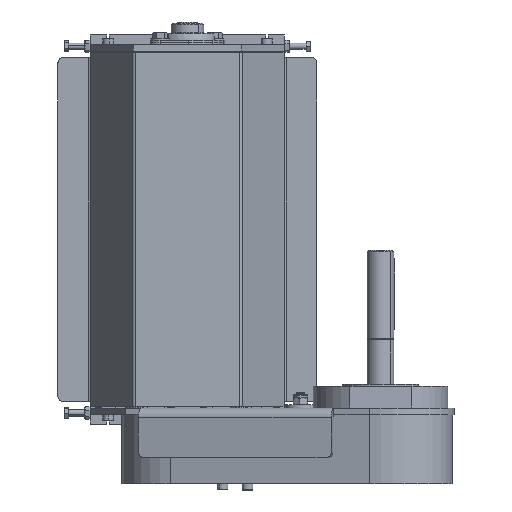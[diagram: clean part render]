
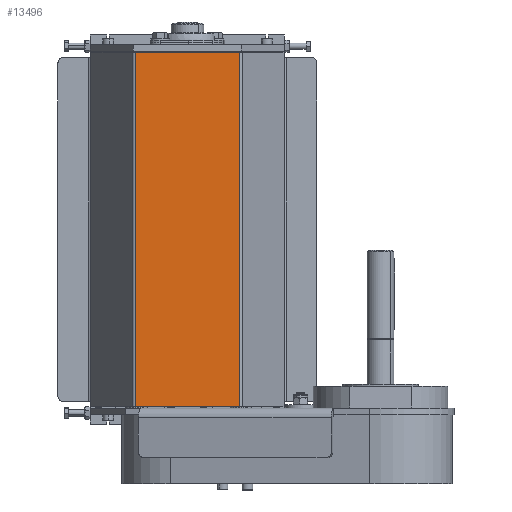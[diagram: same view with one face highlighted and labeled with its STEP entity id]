
A CAD part, front view. The second image highlights one B-rep face of the part: STEP entity #13496.
In plain terms, the highlighted planar face has unit normal (0, -1, 0).
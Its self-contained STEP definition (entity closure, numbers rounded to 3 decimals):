
#807 = VERTEX_POINT ( 'NONE', #2565 ) ;
#975 = ORIENTED_EDGE ( 'NONE', *, *, #12580, .F. ) ;
#2565 = CARTESIAN_POINT ( 'NONE',  ( 48.268, -200.5, -835.035 ) ) ;
#3413 = LINE ( 'NONE', #9927, #24065 ) ;
#4545 = CARTESIAN_POINT ( 'NONE',  ( -48.268, -200.5, -506.035 ) ) ;
#4814 = AXIS2_PLACEMENT_3D ( 'NONE', #28475, #4827, #7075 ) ;
#4827 = DIRECTION ( 'NONE',  ( 0., 1., 0. ) ) ;
#5038 = EDGE_LOOP ( 'NONE', ( #16384, #29290, #975, #17818 ) ) ;
#6767 = VECTOR ( 'NONE', #18749, 1000. ) ;
#7075 = DIRECTION ( 'NONE',  ( -1., 0., 0. ) ) ;
#8830 = DIRECTION ( 'NONE',  ( 0., 0., -1. ) ) ;
#9256 = EDGE_CURVE ( 'NONE', #10824, #807, #22511, .T. ) ;
#9927 = CARTESIAN_POINT ( 'NONE',  ( -50., -200.5, -506.035 ) ) ;
#10824 = VERTEX_POINT ( 'NONE', #11703 ) ;
#11430 = DIRECTION ( 'NONE',  ( 1., 0., 0. ) ) ;
#11703 = CARTESIAN_POINT ( 'NONE',  ( 48.268, -200.5, -506.035 ) ) ;
#12580 = EDGE_CURVE ( 'NONE', #15241, #10824, #3413, .T. ) ;
#13496 = ADVANCED_FACE ( 'NONE', ( #19517 ), #19162, .F. ) ;
#14129 = VERTEX_POINT ( 'NONE', #29065 ) ;
#14596 = VECTOR ( 'NONE', #11430, 1000. ) ;
#14963 = LINE ( 'NONE', #25684, #14596 ) ;
#15241 = VERTEX_POINT ( 'NONE', #22793 ) ;
#15421 = EDGE_CURVE ( 'NONE', #15241, #14129, #16169, .T. ) ;
#16169 = LINE ( 'NONE', #4545, #6767 ) ;
#16384 = ORIENTED_EDGE ( 'NONE', *, *, #20305, .T. ) ;
#17818 = ORIENTED_EDGE ( 'NONE', *, *, #15421, .T. ) ;
#18749 = DIRECTION ( 'NONE',  ( 0., 0., -1. ) ) ;
#19162 = PLANE ( 'NONE',  #4814 ) ;
#19517 = FACE_OUTER_BOUND ( 'NONE', #5038, .T. ) ;
#20305 = EDGE_CURVE ( 'NONE', #14129, #807, #14963, .T. ) ;
#22511 = LINE ( 'NONE', #25325, #23273 ) ;
#22793 = CARTESIAN_POINT ( 'NONE',  ( -48.268, -200.5, -506.035 ) ) ;
#23273 = VECTOR ( 'NONE', #8830, 1000. ) ;
#24065 = VECTOR ( 'NONE', #24311, 1000. ) ;
#24311 = DIRECTION ( 'NONE',  ( 1., 0., 0. ) ) ;
#25325 = CARTESIAN_POINT ( 'NONE',  ( 48.268, -200.5, -506.035 ) ) ;
#25684 = CARTESIAN_POINT ( 'NONE',  ( -50., -200.5, -835.035 ) ) ;
#28475 = CARTESIAN_POINT ( 'NONE',  ( -50., -200.5, -506.035 ) ) ;
#29065 = CARTESIAN_POINT ( 'NONE',  ( -48.268, -200.5, -835.035 ) ) ;
#29290 = ORIENTED_EDGE ( 'NONE', *, *, #9256, .F. ) ;
